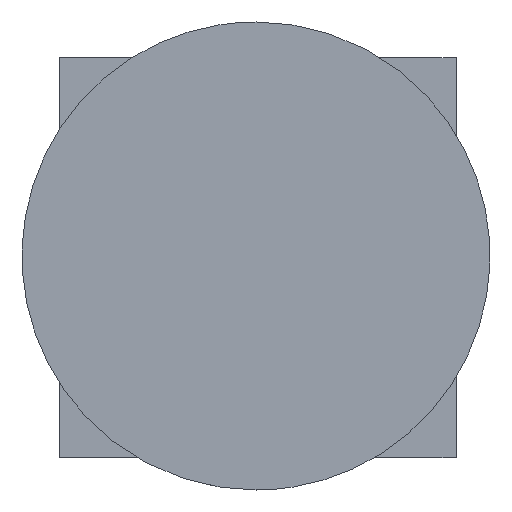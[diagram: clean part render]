
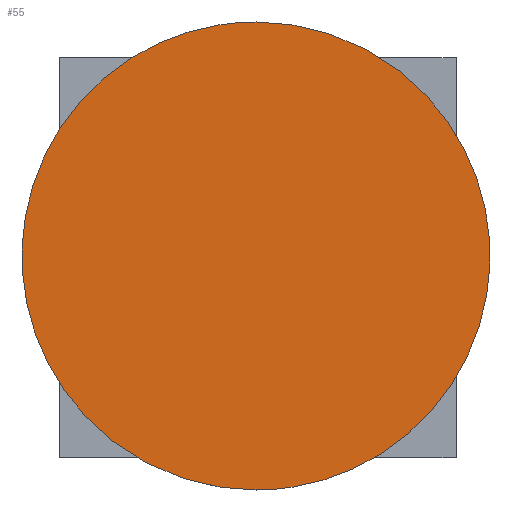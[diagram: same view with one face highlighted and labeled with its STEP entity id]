
A CAD part, top view. The second image highlights one B-rep face of the part: STEP entity #55.
In plain terms, the highlighted planar face has unit normal (0, 0, 1).
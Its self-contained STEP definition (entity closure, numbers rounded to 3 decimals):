
#55=ADVANCED_FACE('',(#75),#294,.T.);
#75=FACE_OUTER_BOUND('',#95,.T.);
#95=EDGE_LOOP('',(#142,#143));
#142=ORIENTED_EDGE('',*,*,#231,.F.);
#143=ORIENTED_EDGE('',*,*,#206,.F.);
#206=EDGE_CURVE('',#262,#278,#242,.T.);
#231=EDGE_CURVE('',#278,#262,#249,.T.);
#242=(
BOUNDED_CURVE()
B_SPLINE_CURVE(2,(#494,#495,#496,#497,#498),.UNSPECIFIED.,.F.,.F.)
B_SPLINE_CURVE_WITH_KNOTS((3,2,3),(0.,251.327,502.655),
 .UNSPECIFIED.)
CURVE()
GEOMETRIC_REPRESENTATION_ITEM()
RATIONAL_B_SPLINE_CURVE((1.,0.707,1.,0.707,1.))
REPRESENTATION_ITEM('')
);
#249=(
BOUNDED_CURVE()
B_SPLINE_CURVE(2,(#556,#557,#558,#559,#560),.UNSPECIFIED.,.F.,.F.)
B_SPLINE_CURVE_WITH_KNOTS((3,2,3),(502.655,753.982,1005.31),
 .UNSPECIFIED.)
CURVE()
GEOMETRIC_REPRESENTATION_ITEM()
RATIONAL_B_SPLINE_CURVE((1.,0.707,1.,0.707,1.))
REPRESENTATION_ITEM('')
);
#262=VERTEX_POINT('',#462);
#278=VERTEX_POINT('',#478);
#294=PLANE('',#328);
#328=AXIS2_PLACEMENT_3D('',#420,#345,$);
#345=DIRECTION('',(0.,0.,1.));
#420=CARTESIAN_POINT('',(302.143,197.365,749.937));
#462=CARTESIAN_POINT('',(108.393,-151.385,749.937));
#478=CARTESIAN_POINT('',(108.393,158.615,749.937));
#494=CARTESIAN_POINT('',(108.393,-151.385,749.937));
#495=CARTESIAN_POINT('',(-46.607,-151.385,749.937));
#496=CARTESIAN_POINT('',(-46.607,3.615,749.937));
#497=CARTESIAN_POINT('',(-46.607,158.615,749.937));
#498=CARTESIAN_POINT('',(108.393,158.615,749.937));
#556=CARTESIAN_POINT('',(108.393,158.615,749.937));
#557=CARTESIAN_POINT('',(263.393,158.615,749.937));
#558=CARTESIAN_POINT('',(263.393,3.615,749.937));
#559=CARTESIAN_POINT('',(263.393,-151.385,749.937));
#560=CARTESIAN_POINT('',(108.393,-151.385,749.937));
